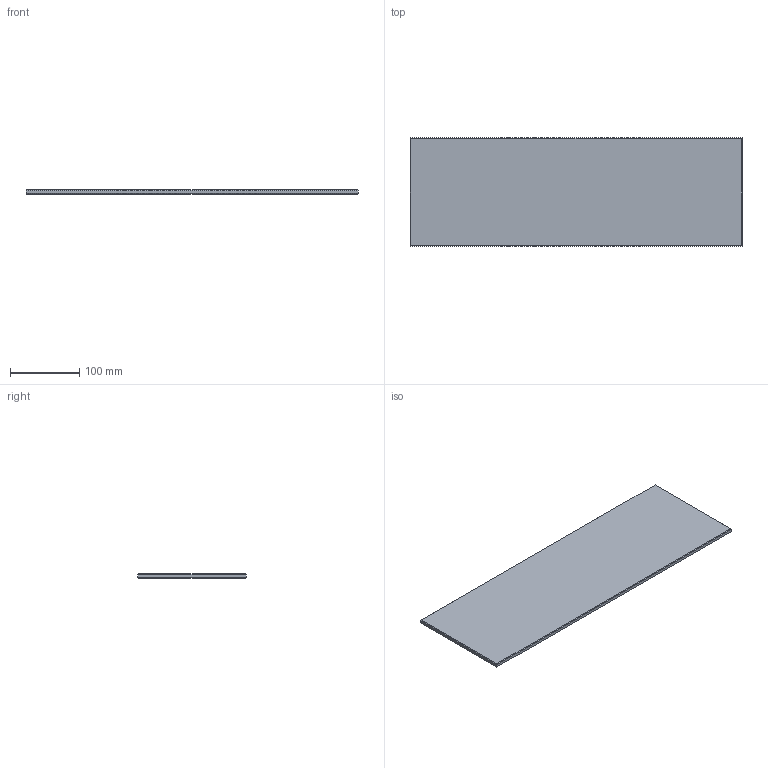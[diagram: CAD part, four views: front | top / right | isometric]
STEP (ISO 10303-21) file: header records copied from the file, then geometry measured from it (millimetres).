
FILE_DESCRIPTION((''),'2;1');
FILE_NAME('238496','2023-01-19T09:32:05',('1ke04'),('Kesseboehmer'),'CREO PARAMETRIC BY PTC INC, 2020414','CREO PARAMETRIC BY PTC INC, 2020414','');
FILE_SCHEMA(('AUTOMOTIVE_DESIGN { 1 0 10303 214 1 1 1 1 }'));
Length unit declared in the file: millimetre
Products named in the file (1): 238496
Bounding box: 481 x 157 x 6 mm (x, y, z)
Volume: 451828.7 mm3; surface area: 157191.8 mm2
Topology: 1 solids, 1 shells, 14 faces, 28 edges, 16 vertices
Faces by surface type: plane 14
Entity records: 967 total; most frequent: COLOUR_RGB 195, DIRECTION 81, CARTESIAN_POINT 76, ORIENTED_EDGE 56, PROPERTY_DEFINITION 39, REPRESENTATION 38, PROPERTY_DEFINITION_REPRESENTATION 38, PRESENTATION_STYLE_ASSIGNMENT 32
